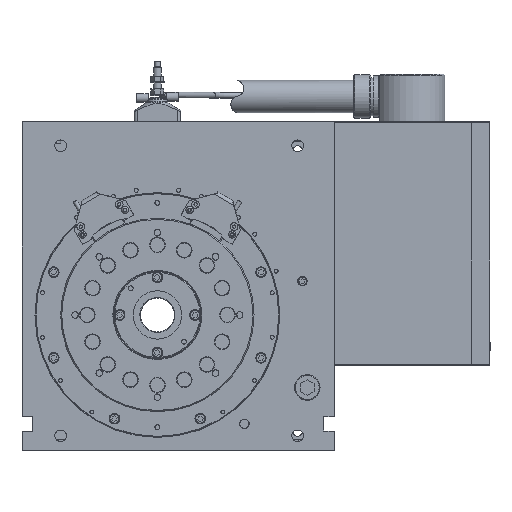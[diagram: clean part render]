
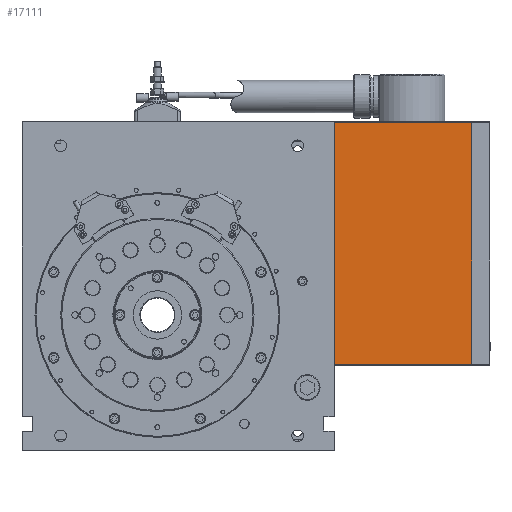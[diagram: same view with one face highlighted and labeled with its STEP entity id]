
A CAD part, top view. The second image highlights one B-rep face of the part: STEP entity #17111.
In plain terms, the highlighted planar face has unit normal (0, 0, 1).
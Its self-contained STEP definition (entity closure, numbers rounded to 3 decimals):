
#217 = EDGE_CURVE ( 'NONE', #5987, #47602, #35256, .T. ) ;
#5053 = CARTESIAN_POINT ( 'NONE',  ( 325., 200., 137. ) ) ;
#5987 = VERTEX_POINT ( 'NONE', #52584 ) ;
#7011 = VECTOR ( 'NONE', #29368, 1000. ) ;
#8757 = EDGE_CURVE ( 'NONE', #5987, #30400, #43301, .T. ) ;
#9595 = PLANE ( 'NONE',  #31163 ) ;
#9851 = DIRECTION ( 'NONE',  ( 0., -1., 0. ) ) ;
#11518 = ORIENTED_EDGE ( 'NONE', *, *, #13813, .T. ) ;
#13813 = EDGE_CURVE ( 'NONE', #51122, #30400, #18001, .T. ) ;
#14085 = CARTESIAN_POINT ( 'NONE',  ( 183., 200., 137. ) ) ;
#14253 = CARTESIAN_POINT ( 'NONE',  ( 325., -51., 137. ) ) ;
#16424 = VECTOR ( 'NONE', #18520, 1000. ) ;
#17111 = ADVANCED_FACE ( 'NONE', ( #17853 ), #9595, .F. ) ;
#17853 = FACE_OUTER_BOUND ( 'NONE', #51832, .T. ) ;
#18001 = LINE ( 'NONE', #14253, #16424 ) ;
#18520 = DIRECTION ( 'NONE',  ( 1., 0., 0. ) ) ;
#19186 = CARTESIAN_POINT ( 'NONE',  ( 325., 199., 137. ) ) ;
#21144 = VECTOR ( 'NONE', #26954, 1000. ) ;
#23493 = CARTESIAN_POINT ( 'NONE',  ( 325., 200., 137. ) ) ;
#23500 = CARTESIAN_POINT ( 'NONE',  ( 183., -51., 137. ) ) ;
#26954 = DIRECTION ( 'NONE',  ( -1., 0., 0. ) ) ;
#28912 = EDGE_CURVE ( 'NONE', #51122, #47602, #34424, .T. ) ;
#29368 = DIRECTION ( 'NONE',  ( 0., 1., 0. ) ) ;
#30400 = VERTEX_POINT ( 'NONE', #41169 ) ;
#31163 = AXIS2_PLACEMENT_3D ( 'NONE', #5053, #37937, #9851 ) ;
#34424 = LINE ( 'NONE', #14085, #7011 ) ;
#35197 = ORIENTED_EDGE ( 'NONE', *, *, #8757, .F. ) ;
#35256 = LINE ( 'NONE', #19186, #21144 ) ;
#37937 = DIRECTION ( 'NONE',  ( 0., 0., -1. ) ) ;
#41149 = ORIENTED_EDGE ( 'NONE', *, *, #217, .T. ) ;
#41169 = CARTESIAN_POINT ( 'NONE',  ( 325., -51., 137. ) ) ;
#41312 = VECTOR ( 'NONE', #52672, 1000. ) ;
#43301 = LINE ( 'NONE', #23493, #41312 ) ;
#43416 = CARTESIAN_POINT ( 'NONE',  ( 183., 199., 137. ) ) ;
#47602 = VERTEX_POINT ( 'NONE', #43416 ) ;
#51122 = VERTEX_POINT ( 'NONE', #23500 ) ;
#51795 = ORIENTED_EDGE ( 'NONE', *, *, #28912, .F. ) ;
#51832 = EDGE_LOOP ( 'NONE', ( #51795, #11518, #35197, #41149 ) ) ;
#52584 = CARTESIAN_POINT ( 'NONE',  ( 325., 199., 137. ) ) ;
#52672 = DIRECTION ( 'NONE',  ( 0., -1., 0. ) ) ;
